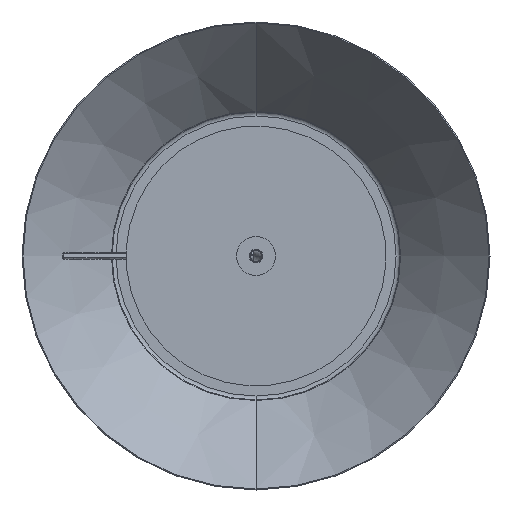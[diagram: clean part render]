
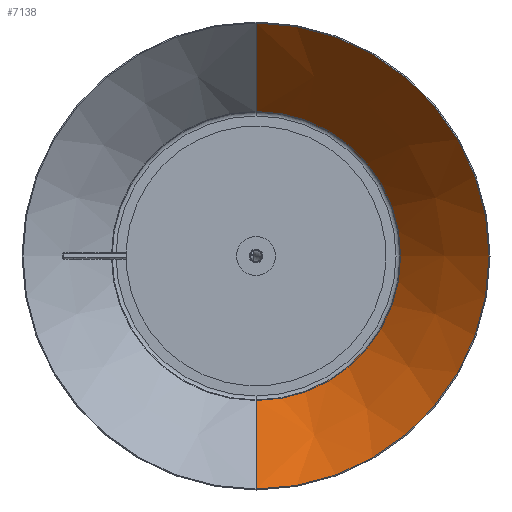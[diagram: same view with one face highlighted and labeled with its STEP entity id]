
A CAD part, front view. The second image highlights one B-rep face of the part: STEP entity #7138.
In plain terms, the highlighted conical face has half-angle 41.09 degrees and reference radius 179.247 mm.
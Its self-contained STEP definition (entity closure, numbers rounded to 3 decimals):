
#171 = DIRECTION ( 'NONE',  ( 0., -0.754, 0.657 ) ) ;
#315 = FACE_OUTER_BOUND ( 'NONE', #2284, .T. ) ;
#848 = VERTEX_POINT ( 'NONE', #8657 ) ;
#1391 = EDGE_CURVE ( 'NONE', #23937, #10044, #6928, .T. ) ;
#2284 = EDGE_LOOP ( 'NONE', ( #15974, #22813, #11036, #4746 ) ) ;
#2290 = DIRECTION ( 'NONE',  ( 0., 0., -1. ) ) ;
#3418 = LINE ( 'NONE', #8245, #7134 ) ;
#4746 = ORIENTED_EDGE ( 'NONE', *, *, #22857, .T. ) ;
#6174 = LINE ( 'NONE', #18563, #17943 ) ;
#6928 = CIRCLE ( 'NONE', #16442, 110.719 ) ;
#7134 = VECTOR ( 'NONE', #171, 1000. ) ;
#7138 = ADVANCED_FACE ( 'NONE', ( #315 ), #17955, .F. ) ;
#8245 = CARTESIAN_POINT ( 'NONE',  ( -0.021, 322.054, 179.247 ) ) ;
#8657 = CARTESIAN_POINT ( 'NONE',  ( -0.021, 322.054, 179.247 ) ) ;
#8849 = CARTESIAN_POINT ( 'NONE',  ( -0.021, 400.637, 110.719 ) ) ;
#9006 = DIRECTION ( 'NONE',  ( 0., -1., 0. ) ) ;
#10044 = VERTEX_POINT ( 'NONE', #8849 ) ;
#11036 = ORIENTED_EDGE ( 'NONE', *, *, #11732, .T. ) ;
#11732 = EDGE_CURVE ( 'NONE', #23937, #13404, #6174, .T. ) ;
#13404 = VERTEX_POINT ( 'NONE', #15653 ) ;
#14133 = DIRECTION ( 'NONE',  ( 0., 0., -1. ) ) ;
#15653 = CARTESIAN_POINT ( 'NONE',  ( -0.021, 322.054, -179.247 ) ) ;
#15974 = ORIENTED_EDGE ( 'NONE', *, *, #23637, .F. ) ;
#16041 = CARTESIAN_POINT ( 'NONE',  ( -0.021, 400.637, 0. ) ) ;
#16442 = AXIS2_PLACEMENT_3D ( 'NONE', #16041, #22084, #14133 ) ;
#16664 = AXIS2_PLACEMENT_3D ( 'NONE', #25526, #9006, #24558 ) ;
#17943 = VECTOR ( 'NONE', #24668, 1000. ) ;
#17955 = CONICAL_SURFACE ( 'NONE', #21085, 179.247, 0.717 ) ;
#18563 = CARTESIAN_POINT ( 'NONE',  ( -0.021, 322.054, -179.247 ) ) ;
#21085 = AXIS2_PLACEMENT_3D ( 'NONE', #22004, #22098, #2290 ) ;
#22004 = CARTESIAN_POINT ( 'NONE',  ( -0.021, 322.054, 0. ) ) ;
#22084 = DIRECTION ( 'NONE',  ( 0., -1., 0. ) ) ;
#22098 = DIRECTION ( 'NONE',  ( 0., -1., 0. ) ) ;
#22756 = CARTESIAN_POINT ( 'NONE',  ( -0.021, 400.637, -110.719 ) ) ;
#22813 = ORIENTED_EDGE ( 'NONE', *, *, #1391, .F. ) ;
#22857 = EDGE_CURVE ( 'NONE', #13404, #848, #23284, .T. ) ;
#23284 = CIRCLE ( 'NONE', #16664, 179.247 ) ;
#23637 = EDGE_CURVE ( 'NONE', #10044, #848, #3418, .T. ) ;
#23937 = VERTEX_POINT ( 'NONE', #22756 ) ;
#24558 = DIRECTION ( 'NONE',  ( 0., 0., -1. ) ) ;
#24668 = DIRECTION ( 'NONE',  ( 0., -0.754, -0.657 ) ) ;
#25526 = CARTESIAN_POINT ( 'NONE',  ( -0.021, 322.054, 0. ) ) ;
